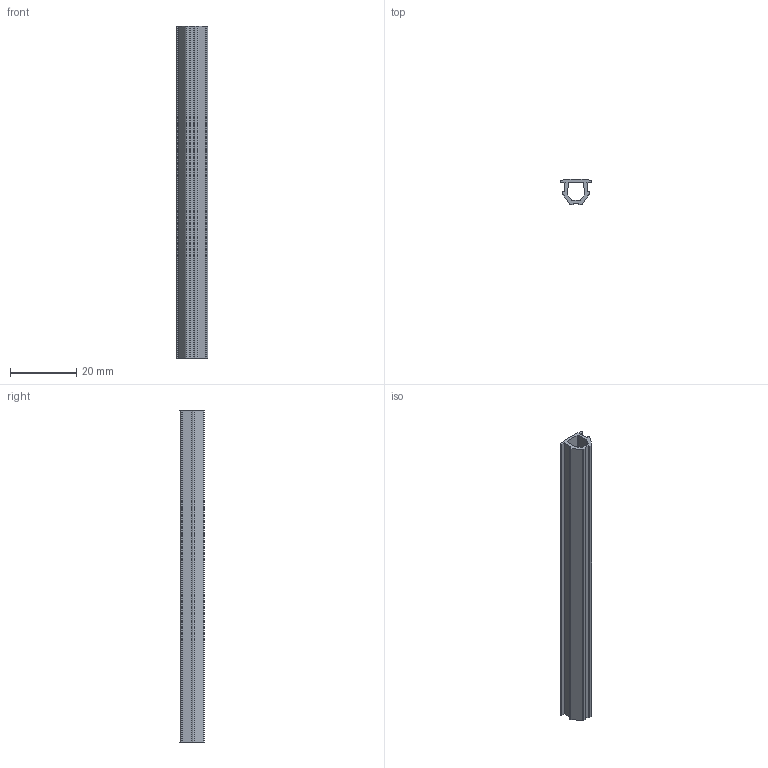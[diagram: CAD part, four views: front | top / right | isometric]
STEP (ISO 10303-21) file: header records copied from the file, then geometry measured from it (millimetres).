
FILE_DESCRIPTION(/* description */ (''),/* implementation_level */ '2;1');
FILE_NAME(/* name */ '\\AM-PUBLIC\Share\02.新型錄-2021\AM6系列\6系列-3D\06.6系列-AMF-飾條配件\AMF-06A.stp',/* time_stamp */ '2021-10-26T16:21:39+08:00',/* author */ ('user'),/* organization */ (''),/* preprocessor_version */ 'ST-DEVELOPER v18.1',/* originating_system */ 'Autodesk Inventor 2021',/* authorisation */ '');
FILE_SCHEMA (('AUTOMOTIVE_DESIGN { 1 0 10303 214 3 1 1 }'));
Length unit declared in the file: millimetre
Products named in the file (1): AMF-06A
Bounding box: 9.4 x 7.47 x 100 mm (x, y, z)
Volume: 2519.9 mm3; surface area: 5174.7 mm2
Topology: 1 solids, 1 shells, 40 faces, 114 edges, 76 vertices
Faces by surface type: plane 23, cylinder 17
Entity records: 1357 total; most frequent: CARTESIAN_POINT 231, DIRECTION 230, ORIENTED_EDGE 228, EDGE_CURVE 114, LINE 80, VECTOR 80, VERTEX_POINT 76, AXIS2_PLACEMENT_3D 75
